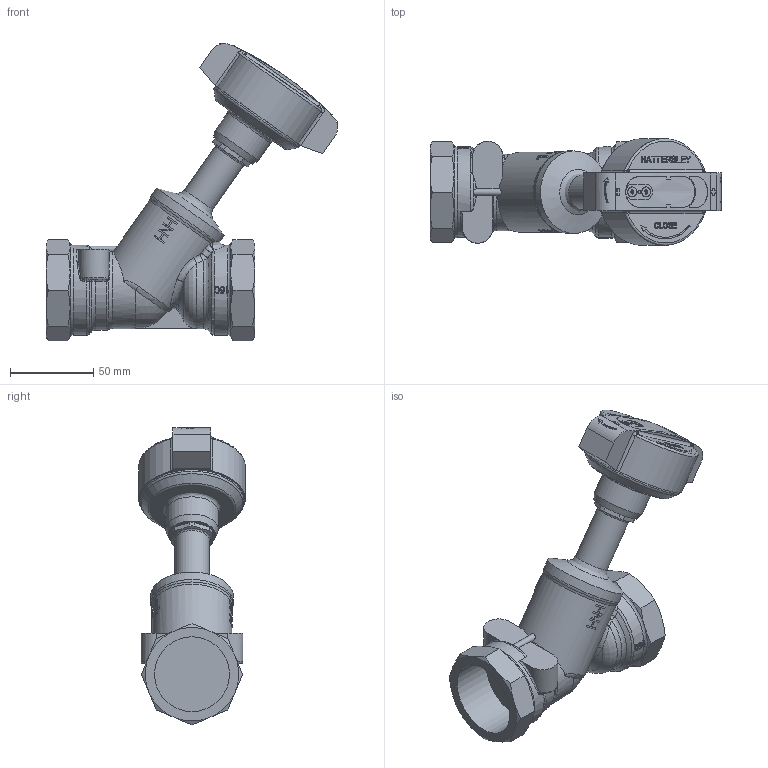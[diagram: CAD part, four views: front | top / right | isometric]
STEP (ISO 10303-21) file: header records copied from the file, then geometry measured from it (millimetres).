
FILE_DESCRIPTION((''),'2;1');
FILE_NAME('P:\Fastrack\53972_CRANE 3D\Workspace\HATTERSLEY\Fig-1432_1 1-2in\Fig-1432_1 1-2in.stp','2011-03-07T15:17:21',('btaylor'),(''),'Autodesk Inventor 2008','Autodesk Inventor 2008','');
FILE_SCHEMA(('AUTOMOTIVE_DESIGN { 1 0 10303 214 1 1 1 1 }'));
Length unit declared in the file: millimetre
Products named in the file (1): Fig-1432_1 1-2in
Bounding box: 174.83 x 63.85 x 178.27 mm (x, y, z)
Volume: 405660.4 mm3; surface area: 56081.7 mm2
Topology: 1 solids, 1 shells, 686 faces, 1779 edges, 1143 vertices
Faces by surface type: plane 302, bspline 250, cylinder 79, cone 41, torus 12, sphere 2
Full cylindrical faces by diameter (mm): 20.5 x1, 31.5 x1, 49.5 x1, 54 x2, 61.958 x1
Entity records: 66850 total; most frequent: CARTESIAN_POINT 51414, ORIENTED_EDGE 3488, DIRECTION 2246, EDGE_CURVE 1744, VERTEX_POINT 1130, VECTOR 790, LINE 790, EDGE_LOOP 763
